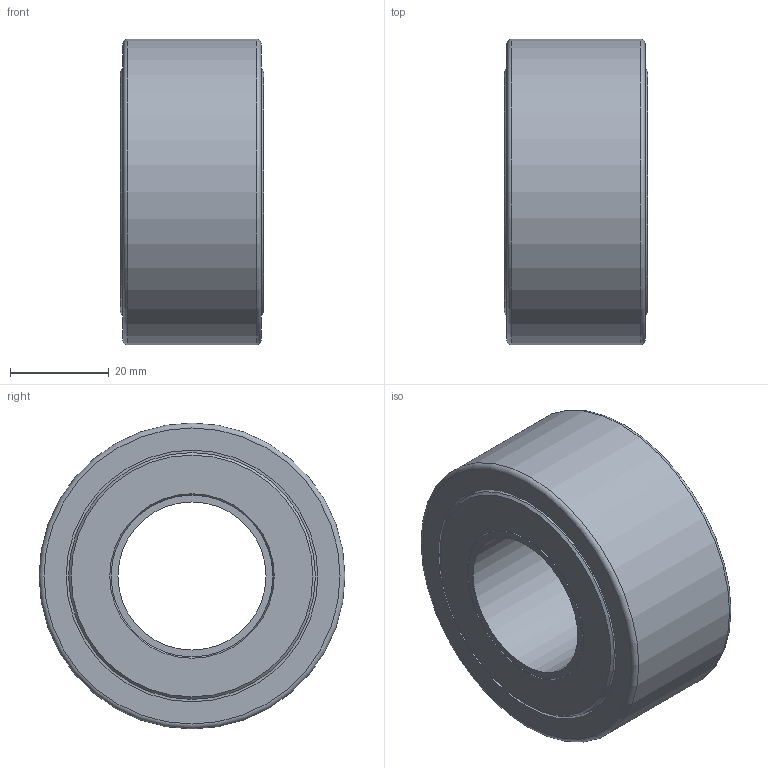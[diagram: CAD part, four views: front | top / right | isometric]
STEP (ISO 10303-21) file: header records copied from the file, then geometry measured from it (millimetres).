
FILE_DESCRIPTION(/* description */ (''),/* implementation_level */ '2;1');
FILE_NAME(/* name */ 'C:\Users\OUREHANEKD\Desktop\Ložiská 3D\MODELY\Ihlove loziska\NATR-PP\NATR-PP--\NATR30-PP.stp',/* time_stamp */ '2016-10-18T15:24:46+02:00',/* author */ ('OUREHANEKD'),/* organization */ (''),/* preprocessor_version */ 'ST-DEVELOPER v15.6',/* originating_system */ 'Autodesk Inventor 2015',/* authorisation */ '');
FILE_SCHEMA (('AUTOMOTIVE_DESIGN { 1 0 10303 214 3 1 1 }'));
Length unit declared in the file: millimetre
Products named in the file (6): NATR30-01; NATR30-02; NATR30-kl; NATR30-kr; NATR30-needle; NATR30-PP
Assembly tree (24 placements, depth 2):
  NATR30-PP
    NATR30-01
    NATR30-02
    NATR30-kl
    NATR30-kr
    NATR30-needle  x20
Bounding box: 29 x 62 x 62 mm (x, y, z)
Volume: 62283.4 mm3; surface area: 34975.7 mm2
Topology: 25 solids, 25 shells, 98 faces, 122 edges, 80 vertices
Faces by surface type: plane 56, cylinder 36, cone 4, torus 2
Full cylindrical faces by diameter (mm): 4.725 x20, 30 x1, 32.75 x4, 34.4 x1, 37.343 x1, 40.907 x1, 43.85 x1, 50 x4, 51 x2, 62 x1
Entity records: 1113 total; most frequent: DIRECTION 222, CARTESIAN_POINT 151, AXIS2_PLACEMENT_3D 111, EDGE_LOOP 80, ORIENTED_EDGE 80, FACE_OUTER_BOUND 41, ADVANCED_FACE 41, CIRCLE 40
